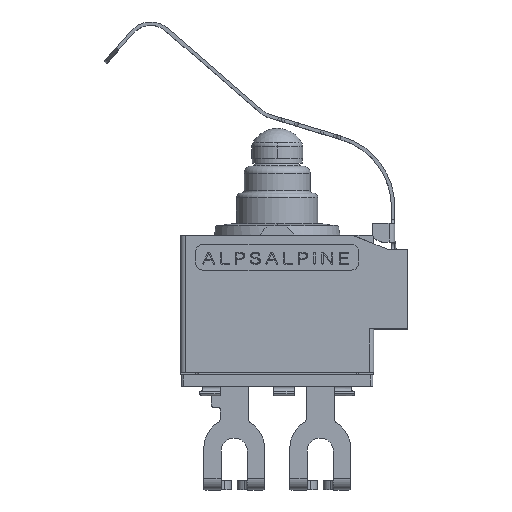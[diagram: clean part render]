
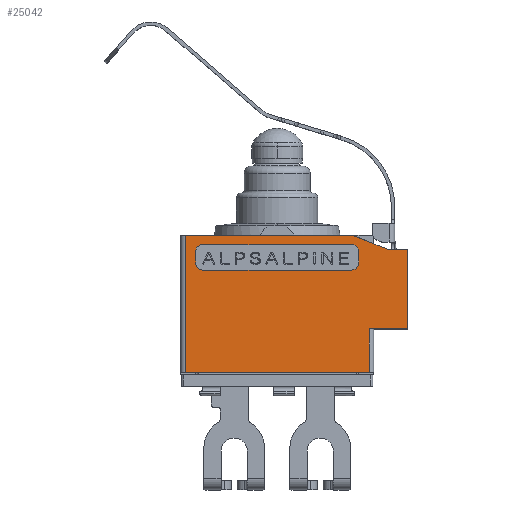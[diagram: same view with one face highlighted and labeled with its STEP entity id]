
A CAD part, top view. The second image highlights one B-rep face of the part: STEP entity #25042.
In plain terms, the highlighted planar face has unit normal (0, 0, 1).
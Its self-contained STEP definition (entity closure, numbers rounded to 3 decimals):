
#87 = EDGE_CURVE ( 'NONE', #17338, #25077, #12708, .T. ) ;
#317 = EDGE_CURVE ( 'NONE', #18252, #19738, #7822, .T. ) ;
#665 = CARTESIAN_POINT ( 'NONE',  ( -4.198, 8., 2.85 ) ) ;
#694 = CIRCLE ( 'NONE', #4843, 0.3 ) ;
#1073 = DIRECTION ( 'NONE',  ( 0., -1., 0. ) ) ;
#1328 = EDGE_CURVE ( 'NONE', #15122, #18252, #23961, .T. ) ;
#1460 = CARTESIAN_POINT ( 'NONE',  ( 3.227, 7.6, 2.85 ) ) ;
#1922 = CARTESIAN_POINT ( 'NONE',  ( 4.937, 3.975, 2.85 ) ) ;
#1942 = ORIENTED_EDGE ( 'NONE', *, *, #19847, .T. ) ;
#1963 = VERTEX_POINT ( 'NONE', #19261 ) ;
#1965 = CARTESIAN_POINT ( 'NONE',  ( -3.923, 7.4, 2.85 ) ) ;
#2025 = EDGE_CURVE ( 'NONE', #24630, #18598, #5830, .T. ) ;
#2200 = DIRECTION ( 'NONE',  ( 1., 0., 0. ) ) ;
#2207 = VERTEX_POINT ( 'NONE', #17719 ) ;
#2262 = DIRECTION ( 'NONE',  ( 0., -1., 0. ) ) ;
#2285 = LINE ( 'NONE', #665, #9120 ) ;
#2701 = EDGE_CURVE ( 'NONE', #25759, #18598, #17089, .T. ) ;
#2769 = AXIS2_PLACEMENT_3D ( 'NONE', #22826, #16542, #25230 ) ;
#2894 = CIRCLE ( 'NONE', #12999, 0.3 ) ;
#2917 = ORIENTED_EDGE ( 'NONE', *, *, #10026, .T. ) ;
#3289 = VECTOR ( 'NONE', #7222, 1000. ) ;
#3404 = CARTESIAN_POINT ( 'NONE',  ( -3.923, 8., 2.85 ) ) ;
#3555 = VECTOR ( 'NONE', #2262, 1000. ) ;
#3814 = DIRECTION ( 'NONE',  ( 1., 0., 0. ) ) ;
#3922 = VECTOR ( 'NONE', #15737, 1000. ) ;
#4493 = CARTESIAN_POINT ( 'NONE',  ( 5.647, 7.4, 2.85 ) ) ;
#4528 = CARTESIAN_POINT ( 'NONE',  ( -3.173, 7.3, 2.85 ) ) ;
#4730 = CARTESIAN_POINT ( 'NONE',  ( 3.227, 7.6, 2.85 ) ) ;
#4843 = AXIS2_PLACEMENT_3D ( 'NONE', #5740, #12492, #12351 ) ;
#4923 = AXIS2_PLACEMENT_3D ( 'NONE', #14215, #14091, #22919 ) ;
#5280 = LINE ( 'NONE', #25016, #25189 ) ;
#5375 = CARTESIAN_POINT ( 'NONE',  ( 3.227, 6.5, 2.85 ) ) ;
#5740 = CARTESIAN_POINT ( 'NONE',  ( 3.227, 7.3, 2.85 ) ) ;
#5830 = LINE ( 'NONE', #14582, #9792 ) ;
#6224 = ORIENTED_EDGE ( 'NONE', *, *, #10061, .F. ) ;
#6230 = VERTEX_POINT ( 'NONE', #27299 ) ;
#6299 = ORIENTED_EDGE ( 'NONE', *, *, #317, .F. ) ;
#6434 = VERTEX_POINT ( 'NONE', #6979 ) ;
#6979 = CARTESIAN_POINT ( 'NONE',  ( -3.923, 2.1, 2.85 ) ) ;
#7222 = DIRECTION ( 'NONE',  ( 0., 1., 0. ) ) ;
#7480 = AXIS2_PLACEMENT_3D ( 'NONE', #4528, #13274, #15561 ) ;
#7495 = CARTESIAN_POINT ( 'NONE',  ( 5.647, 7.4, 2.85 ) ) ;
#7500 = ORIENTED_EDGE ( 'NONE', *, *, #1328, .F. ) ;
#7690 = CARTESIAN_POINT ( 'NONE',  ( -3.473, 7.3, 2.85 ) ) ;
#7822 = CIRCLE ( 'NONE', #2769, 0.3 ) ;
#8162 = EDGE_CURVE ( 'NONE', #11734, #17343, #694, .T. ) ;
#9120 = VECTOR ( 'NONE', #24601, 1000. ) ;
#9438 = ORIENTED_EDGE ( 'NONE', *, *, #24741, .T. ) ;
#9446 = EDGE_LOOP ( 'NONE', ( #12677, #1942, #27325, #12391, #2917, #9438, #26447, #22107 ) ) ;
#9525 = EDGE_CURVE ( 'NONE', #6230, #1963, #14427, .T. ) ;
#9792 = VECTOR ( 'NONE', #14869, 1000. ) ;
#9827 = FACE_BOUND ( 'NONE', #21491, .T. ) ;
#10026 = EDGE_CURVE ( 'NONE', #24630, #19197, #2285, .T. ) ;
#10061 = EDGE_CURVE ( 'NONE', #19738, #11734, #13750, .T. ) ;
#10849 = CARTESIAN_POINT ( 'NONE',  ( 5.647, 7.4, 2.85 ) ) ;
#11190 = CIRCLE ( 'NONE', #7480, 0.3 ) ;
#11734 = VERTEX_POINT ( 'NONE', #19624 ) ;
#11847 = ORIENTED_EDGE ( 'NONE', *, *, #21417, .F. ) ;
#12351 = DIRECTION ( 'NONE',  ( 1., 0., 0. ) ) ;
#12391 = ORIENTED_EDGE ( 'NONE', *, *, #2025, .F. ) ;
#12492 = DIRECTION ( 'NONE',  ( 0., 0., 1. ) ) ;
#12677 = ORIENTED_EDGE ( 'NONE', *, *, #87, .T. ) ;
#12708 = LINE ( 'NONE', #1922, #18297 ) ;
#12891 = LINE ( 'NONE', #1965, #3555 ) ;
#12999 = AXIS2_PLACEMENT_3D ( 'NONE', #15562, #13133, #19826 ) ;
#13133 = DIRECTION ( 'NONE',  ( 0., 0., 1. ) ) ;
#13257 = CARTESIAN_POINT ( 'NONE',  ( -3.173, 6.5, 2.85 ) ) ;
#13274 = DIRECTION ( 'NONE',  ( 0., 0., 1. ) ) ;
#13491 = DIRECTION ( 'NONE',  ( 0., 1., 0. ) ) ;
#13750 = LINE ( 'NONE', #24465, #24172 ) ;
#13883 = VECTOR ( 'NONE', #28213, 1000. ) ;
#14091 = DIRECTION ( 'NONE',  ( 0., 0., -1. ) ) ;
#14215 = CARTESIAN_POINT ( 'NONE',  ( -4.198, 7.4, 2.85 ) ) ;
#14427 = LINE ( 'NONE', #7690, #26408 ) ;
#14529 = LINE ( 'NONE', #1460, #24012 ) ;
#14582 = CARTESIAN_POINT ( 'NONE',  ( 3.277, 8., 2.85 ) ) ;
#14869 = DIRECTION ( 'NONE',  ( 0.927, -0.376, 0. ) ) ;
#14898 = CARTESIAN_POINT ( 'NONE',  ( 3.277, 8., 2.85 ) ) ;
#15122 = VERTEX_POINT ( 'NONE', #27465 ) ;
#15561 = DIRECTION ( 'NONE',  ( 1., 0., 0. ) ) ;
#15562 = CARTESIAN_POINT ( 'NONE',  ( -3.173, 6.8, 2.85 ) ) ;
#15574 = PLANE ( 'NONE',  #4923 ) ;
#15737 = DIRECTION ( 'NONE',  ( -1., 0., 0. ) ) ;
#16542 = DIRECTION ( 'NONE',  ( 0., 0., 1. ) ) ;
#16591 = DIRECTION ( 'NONE',  ( 0., 1., 0. ) ) ;
#16654 = EDGE_CURVE ( 'NONE', #2207, #6230, #11190, .T. ) ;
#17089 = LINE ( 'NONE', #4493, #13883 ) ;
#17338 = VERTEX_POINT ( 'NONE', #17894 ) ;
#17343 = VERTEX_POINT ( 'NONE', #4730 ) ;
#17719 = CARTESIAN_POINT ( 'NONE',  ( -3.173, 7.6, 2.85 ) ) ;
#17894 = CARTESIAN_POINT ( 'NONE',  ( 3.977, 3.975, 2.85 ) ) ;
#18252 = VERTEX_POINT ( 'NONE', #5375 ) ;
#18297 = VECTOR ( 'NONE', #3814, 1000. ) ;
#18564 = CARTESIAN_POINT ( 'NONE',  ( 3.977, 2.1, 2.85 ) ) ;
#18598 = VERTEX_POINT ( 'NONE', #23218 ) ;
#18960 = DIRECTION ( 'NONE',  ( -1., 0., 0. ) ) ;
#19182 = EDGE_CURVE ( 'NONE', #26381, #17338, #5280, .T. ) ;
#19197 = VERTEX_POINT ( 'NONE', #3404 ) ;
#19261 = CARTESIAN_POINT ( 'NONE',  ( -3.473, 6.8, 2.85 ) ) ;
#19624 = CARTESIAN_POINT ( 'NONE',  ( 3.527, 7.3, 2.85 ) ) ;
#19738 = VERTEX_POINT ( 'NONE', #27990 ) ;
#19826 = DIRECTION ( 'NONE',  ( 1., 0., 0. ) ) ;
#19838 = FACE_OUTER_BOUND ( 'NONE', #9446, .T. ) ;
#19847 = EDGE_CURVE ( 'NONE', #25077, #25759, #24946, .T. ) ;
#20282 = LINE ( 'NONE', #26862, #3922 ) ;
#21382 = ORIENTED_EDGE ( 'NONE', *, *, #9525, .F. ) ;
#21417 = EDGE_CURVE ( 'NONE', #1963, #15122, #2894, .T. ) ;
#21491 = EDGE_LOOP ( 'NONE', ( #26651, #23565, #6224, #6299, #7500, #11847, #21382, #22158 ) ) ;
#22107 = ORIENTED_EDGE ( 'NONE', *, *, #19182, .T. ) ;
#22158 = ORIENTED_EDGE ( 'NONE', *, *, #16654, .F. ) ;
#22230 = EDGE_CURVE ( 'NONE', #17343, #2207, #14529, .T. ) ;
#22826 = CARTESIAN_POINT ( 'NONE',  ( 3.227, 6.8, 2.85 ) ) ;
#22919 = DIRECTION ( 'NONE',  ( -1., 0., 0. ) ) ;
#23218 = CARTESIAN_POINT ( 'NONE',  ( 4.757, 7.4, 2.85 ) ) ;
#23437 = EDGE_CURVE ( 'NONE', #26381, #6434, #20282, .T. ) ;
#23565 = ORIENTED_EDGE ( 'NONE', *, *, #8162, .F. ) ;
#23961 = LINE ( 'NONE', #13257, #25224 ) ;
#24012 = VECTOR ( 'NONE', #18960, 1000. ) ;
#24172 = VECTOR ( 'NONE', #13491, 1000. ) ;
#24465 = CARTESIAN_POINT ( 'NONE',  ( 3.527, 6.8, 2.85 ) ) ;
#24601 = DIRECTION ( 'NONE',  ( -1., 0., 0. ) ) ;
#24630 = VERTEX_POINT ( 'NONE', #14898 ) ;
#24741 = EDGE_CURVE ( 'NONE', #19197, #6434, #12891, .T. ) ;
#24946 = LINE ( 'NONE', #7495, #3289 ) ;
#25016 = CARTESIAN_POINT ( 'NONE',  ( 3.977, 7.4, 2.85 ) ) ;
#25042 = ADVANCED_FACE ( 'NONE', ( #9827, #19838 ), #15574, .F. ) ;
#25077 = VERTEX_POINT ( 'NONE', #26935 ) ;
#25189 = VECTOR ( 'NONE', #16591, 1000. ) ;
#25224 = VECTOR ( 'NONE', #2200, 1000. ) ;
#25230 = DIRECTION ( 'NONE',  ( 1., 0., 0. ) ) ;
#25759 = VERTEX_POINT ( 'NONE', #10849 ) ;
#26381 = VERTEX_POINT ( 'NONE', #18564 ) ;
#26408 = VECTOR ( 'NONE', #1073, 1000. ) ;
#26447 = ORIENTED_EDGE ( 'NONE', *, *, #23437, .F. ) ;
#26651 = ORIENTED_EDGE ( 'NONE', *, *, #22230, .F. ) ;
#26862 = CARTESIAN_POINT ( 'NONE',  ( -4.258, 2.1, 2.85 ) ) ;
#26935 = CARTESIAN_POINT ( 'NONE',  ( 5.647, 3.975, 2.85 ) ) ;
#27299 = CARTESIAN_POINT ( 'NONE',  ( -3.473, 7.3, 2.85 ) ) ;
#27325 = ORIENTED_EDGE ( 'NONE', *, *, #2701, .T. ) ;
#27465 = CARTESIAN_POINT ( 'NONE',  ( -3.173, 6.5, 2.85 ) ) ;
#27990 = CARTESIAN_POINT ( 'NONE',  ( 3.527, 6.8, 2.85 ) ) ;
#28213 = DIRECTION ( 'NONE',  ( -1., 0., 0. ) ) ;
